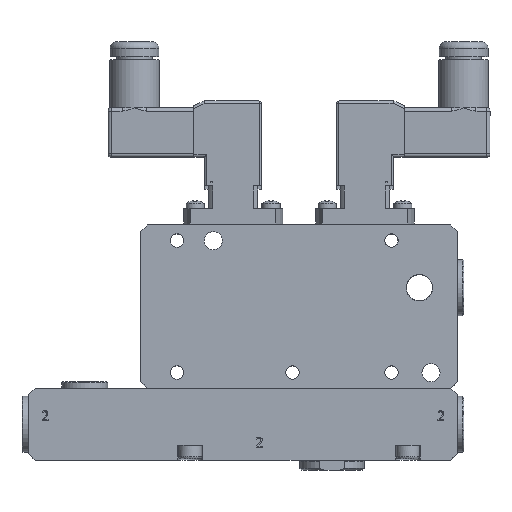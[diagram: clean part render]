
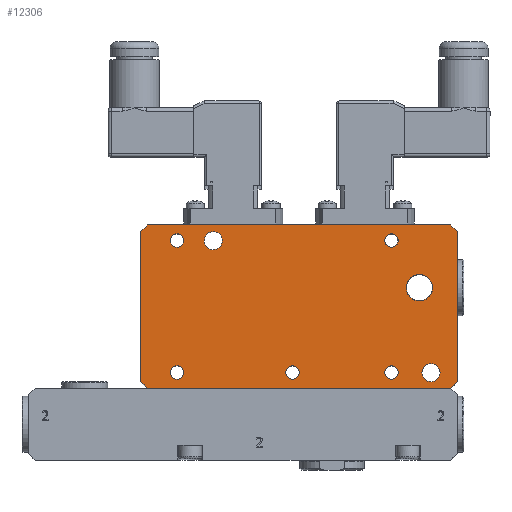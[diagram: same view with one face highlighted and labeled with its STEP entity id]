
A CAD part, top view. The second image highlights one B-rep face of the part: STEP entity #12306.
In plain terms, the highlighted planar face has unit normal (0, 0, 1).
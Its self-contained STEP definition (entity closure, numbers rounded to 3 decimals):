
#286=FACE_BOUND('',#2145,.T.);
#287=FACE_BOUND('',#2146,.T.);
#288=FACE_BOUND('',#2147,.T.);
#289=FACE_BOUND('',#2148,.T.);
#290=FACE_BOUND('',#2149,.T.);
#291=FACE_BOUND('',#2150,.T.);
#292=FACE_BOUND('',#2151,.T.);
#293=FACE_BOUND('',#2152,.T.);
#397=PLANE('',#13324);
#1433=FACE_OUTER_BOUND('',#2144,.T.);
#2144=EDGE_LOOP('',(#8655,#8656,#8657,#8658,#8659,#8660,#8661,#8662));
#2145=EDGE_LOOP('',(#8663));
#2146=EDGE_LOOP('',(#8664));
#2147=EDGE_LOOP('',(#8665));
#2148=EDGE_LOOP('',(#8666));
#2149=EDGE_LOOP('',(#8667));
#2150=EDGE_LOOP('',(#8668));
#2151=EDGE_LOOP('',(#8669));
#2152=EDGE_LOOP('',(#8670));
#3161=LINE('',#17645,#4232);
#3162=LINE('',#17647,#4233);
#3163=LINE('',#17649,#4234);
#3164=LINE('',#17651,#4235);
#3165=LINE('',#17653,#4236);
#3166=LINE('',#17655,#4237);
#3167=LINE('',#17657,#4238);
#3168=LINE('',#17658,#4239);
#4232=VECTOR('',#14438,10.);
#4233=VECTOR('',#14439,10.);
#4234=VECTOR('',#14440,10.);
#4235=VECTOR('',#14441,10.);
#4236=VECTOR('',#14442,10.);
#4237=VECTOR('',#14443,10.);
#4238=VECTOR('',#14444,10.);
#4239=VECTOR('',#14445,10.);
#5312=CIRCLE('',#13315,2.05);
#5313=CIRCLE('',#13317,2.05);
#5314=CIRCLE('',#13319,2.05);
#5315=CIRCLE('',#13321,2.05);
#5316=CIRCLE('',#13323,2.05);
#5317=CIRCLE('',#13325,2.75);
#5318=CIRCLE('',#13326,2.75);
#5319=CIRCLE('',#13327,4.);
#5700=VERTEX_POINT('',#17623);
#5701=VERTEX_POINT('',#17627);
#5702=VERTEX_POINT('',#17631);
#5703=VERTEX_POINT('',#17635);
#5704=VERTEX_POINT('',#17639);
#5705=VERTEX_POINT('',#17643);
#5706=VERTEX_POINT('',#17644);
#5707=VERTEX_POINT('',#17646);
#5708=VERTEX_POINT('',#17648);
#5709=VERTEX_POINT('',#17650);
#5710=VERTEX_POINT('',#17652);
#5711=VERTEX_POINT('',#17654);
#5712=VERTEX_POINT('',#17656);
#5713=VERTEX_POINT('',#17659);
#5714=VERTEX_POINT('',#17661);
#5715=VERTEX_POINT('',#17663);
#6856=EDGE_CURVE('',#5700,#5700,#5312,.T.);
#6858=EDGE_CURVE('',#5701,#5701,#5313,.T.);
#6860=EDGE_CURVE('',#5702,#5702,#5314,.T.);
#6862=EDGE_CURVE('',#5703,#5703,#5315,.T.);
#6864=EDGE_CURVE('',#5704,#5704,#5316,.T.);
#6866=EDGE_CURVE('',#5705,#5706,#3161,.T.);
#6867=EDGE_CURVE('',#5705,#5707,#3162,.T.);
#6868=EDGE_CURVE('',#5708,#5707,#3163,.T.);
#6869=EDGE_CURVE('',#5708,#5709,#3164,.T.);
#6870=EDGE_CURVE('',#5710,#5709,#3165,.T.);
#6871=EDGE_CURVE('',#5710,#5711,#3166,.T.);
#6872=EDGE_CURVE('',#5712,#5711,#3167,.T.);
#6873=EDGE_CURVE('',#5712,#5706,#3168,.T.);
#6874=EDGE_CURVE('',#5713,#5713,#5317,.T.);
#6875=EDGE_CURVE('',#5714,#5714,#5318,.T.);
#6876=EDGE_CURVE('',#5715,#5715,#5319,.T.);
#8655=ORIENTED_EDGE('',*,*,#6866,.F.);
#8656=ORIENTED_EDGE('',*,*,#6867,.T.);
#8657=ORIENTED_EDGE('',*,*,#6868,.F.);
#8658=ORIENTED_EDGE('',*,*,#6869,.T.);
#8659=ORIENTED_EDGE('',*,*,#6870,.F.);
#8660=ORIENTED_EDGE('',*,*,#6871,.T.);
#8661=ORIENTED_EDGE('',*,*,#6872,.F.);
#8662=ORIENTED_EDGE('',*,*,#6873,.T.);
#8663=ORIENTED_EDGE('',*,*,#6874,.T.);
#8664=ORIENTED_EDGE('',*,*,#6875,.T.);
#8665=ORIENTED_EDGE('',*,*,#6856,.T.);
#8666=ORIENTED_EDGE('',*,*,#6858,.T.);
#8667=ORIENTED_EDGE('',*,*,#6860,.T.);
#8668=ORIENTED_EDGE('',*,*,#6862,.T.);
#8669=ORIENTED_EDGE('',*,*,#6864,.T.);
#8670=ORIENTED_EDGE('',*,*,#6876,.T.);
#12306=ADVANCED_FACE('',(#1433,#286,#287,#288,#289,#290,#291,#292,#293),
#397,.T.);
#13315=AXIS2_PLACEMENT_3D('',#17624,#14413,#14414);
#13317=AXIS2_PLACEMENT_3D('',#17628,#14418,#14419);
#13319=AXIS2_PLACEMENT_3D('',#17632,#14423,#14424);
#13321=AXIS2_PLACEMENT_3D('',#17636,#14428,#14429);
#13323=AXIS2_PLACEMENT_3D('',#17640,#14433,#14434);
#13324=AXIS2_PLACEMENT_3D('',#17642,#14436,#14437);
#13325=AXIS2_PLACEMENT_3D('',#17660,#14446,#14447);
#13326=AXIS2_PLACEMENT_3D('',#17662,#14448,#14449);
#13327=AXIS2_PLACEMENT_3D('',#17664,#14450,#14451);
#14413=DIRECTION('center_axis',(0.,0.,
-1.));
#14414=DIRECTION('ref_axis',(1.,0.,0.));
#14418=DIRECTION('center_axis',(0.,0.,
-1.));
#14419=DIRECTION('ref_axis',(1.,0.,0.));
#14423=DIRECTION('center_axis',(0.,0.,
-1.));
#14424=DIRECTION('ref_axis',(1.,0.,0.));
#14428=DIRECTION('center_axis',(0.,0.,
-1.));
#14429=DIRECTION('ref_axis',(1.,0.,0.));
#14433=DIRECTION('center_axis',(0.,0.,
-1.));
#14434=DIRECTION('ref_axis',(1.,0.,0.));
#14436=DIRECTION('center_axis',(0.,0.,
1.));
#14437=DIRECTION('ref_axis',(1.,0.,0.));
#14438=DIRECTION('',(-0.707,-0.707,0.));
#14439=DIRECTION('',(0.,1.,0.));
#14440=DIRECTION('',(0.707,-0.707,0.));
#14441=DIRECTION('',(-1.,0.,0.));
#14442=DIRECTION('',(0.707,0.707,0.));
#14443=DIRECTION('',(0.,-1.,0.));
#14444=DIRECTION('',(-0.707,0.707,0.));
#14445=DIRECTION('',(1.,0.,0.));
#14446=DIRECTION('center_axis',(0.,0.,
-1.));
#14447=DIRECTION('ref_axis',(-1.,0.,0.));
#14448=DIRECTION('center_axis',(0.,0.,
-1.));
#14449=DIRECTION('ref_axis',(-1.,0.,0.));
#14450=DIRECTION('center_axis',(0.,0.,
-1.));
#14451=DIRECTION('ref_axis',(1.,0.,0.));
#17623=CARTESIAN_POINT('',(-8.288,42.299,18.089));
#17624=CARTESIAN_POINT('Origin',(-6.238,42.299,18.089));
#17627=CARTESIAN_POINT('',(26.712,2.299,18.089));
#17628=CARTESIAN_POINT('Origin',(28.762,2.299,18.089));
#17631=CARTESIAN_POINT('',(56.712,2.299,18.089));
#17632=CARTESIAN_POINT('Origin',(58.762,2.299,18.089));
#17635=CARTESIAN_POINT('',(-8.288,2.299,18.089));
#17636=CARTESIAN_POINT('Origin',(-6.238,2.299,18.089));
#17639=CARTESIAN_POINT('',(56.712,42.299,18.089));
#17640=CARTESIAN_POINT('Origin',(58.762,42.299,18.089));
#17642=CARTESIAN_POINT('Origin',(30.762,22.299,18.089));
#17643=CARTESIAN_POINT('',(78.762,-0.451,18.089));
#17644=CARTESIAN_POINT('',(76.762,-2.451,18.089));
#17645=CARTESIAN_POINT('',(71.949,-7.264,18.089));
#17646=CARTESIAN_POINT('',(78.762,45.049,18.089));
#17647=CARTESIAN_POINT('',(78.762,47.049,18.089));
#17648=CARTESIAN_POINT('',(76.762,47.049,18.089));
#17649=CARTESIAN_POINT('',(71.949,51.861,18.089));
#17650=CARTESIAN_POINT('',(-15.238,47.049,18.089));
#17651=CARTESIAN_POINT('',(-17.238,47.049,18.089));
#17652=CARTESIAN_POINT('',(-17.238,45.049,18.089));
#17653=CARTESIAN_POINT('',(-10.426,51.861,18.089));
#17654=CARTESIAN_POINT('',(-17.238,-0.451,18.089));
#17655=CARTESIAN_POINT('',(-17.238,-2.451,18.089));
#17656=CARTESIAN_POINT('',(-15.238,-2.451,18.089));
#17657=CARTESIAN_POINT('',(-10.426,-7.264,18.089));
#17658=CARTESIAN_POINT('',(78.762,-2.451,18.089));
#17659=CARTESIAN_POINT('',(2.012,42.299,18.089));
#17660=CARTESIAN_POINT('Origin',(4.762,42.299,18.089));
#17661=CARTESIAN_POINT('',(68.012,2.299,18.089));
#17662=CARTESIAN_POINT('Origin',(70.762,2.299,18.089));
#17663=CARTESIAN_POINT('',(63.262,28.049,18.089));
#17664=CARTESIAN_POINT('Origin',(67.262,28.049,18.089));
